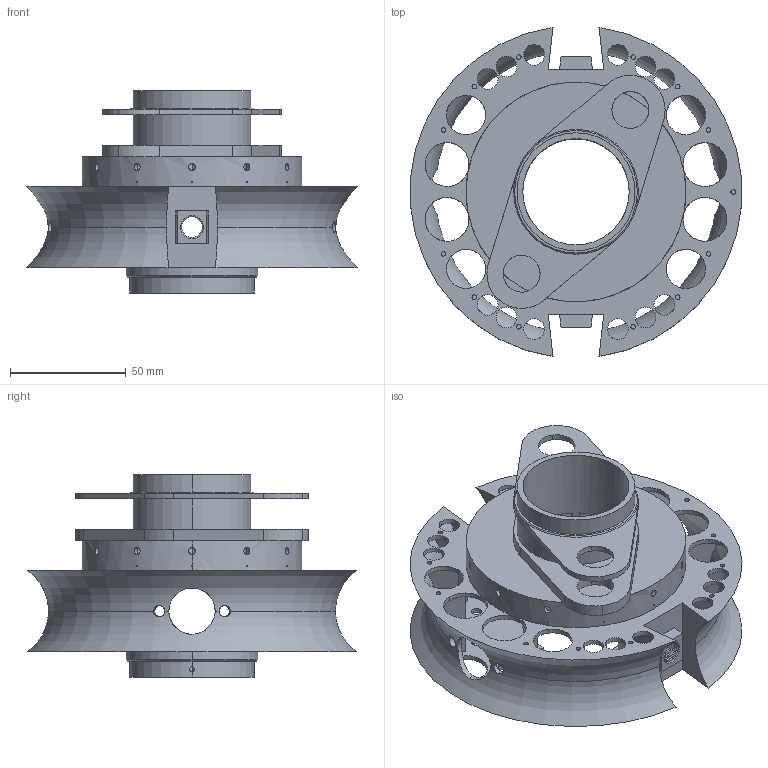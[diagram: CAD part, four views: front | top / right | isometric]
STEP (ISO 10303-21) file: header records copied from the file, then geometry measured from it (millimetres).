
FILE_DESCRIPTION(('STEP AP214'),'1');
FILE_NAME('C:/Users/mashimo/Documents/円弧動エンジン/ボア4.4ｃｍ/TurboCAD/3D/tmp0.STEP','2023-12-27T10:19:24',(' '),(' '),'Spatial InterOp 3D',' ',' ');
FILE_SCHEMA(('automotive_design'));
Length unit declared in the file: millimetre
Products named in the file (1): 1
Bounding box: 143.09 x 142.22 x 87.6 mm (x, y, z)
Volume: 146936.3 mm3; surface area: 117164.9 mm2
Topology: 1 solids, 1 shells, 690 faces, 2147 edges, 1401 vertices
Faces by surface type: cylinder 378, plane 216, cone 64, torus 32
Entity records: 34674 total; most frequent: CARTESIAN_POINT 8888, ORIENTED_EDGE 4422, DIRECTION 4314, EDGE_CURVE 2211, AXIS2_PLACEMENT_3D 1691, VERTEX_POINT 1401, CIRCLE 936, LINE 932
